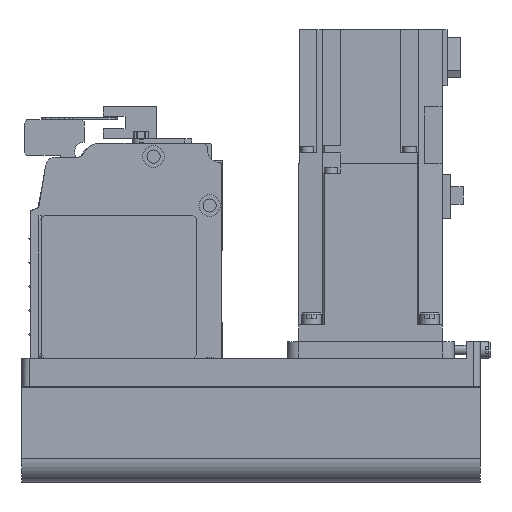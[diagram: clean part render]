
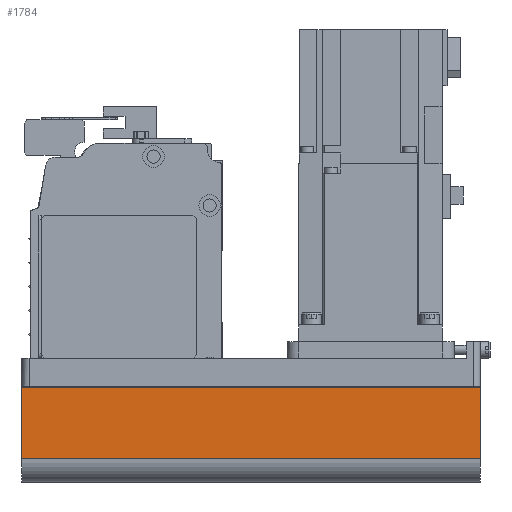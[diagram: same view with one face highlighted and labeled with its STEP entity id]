
A CAD part, left-side view. The second image highlights one B-rep face of the part: STEP entity #1784.
In plain terms, the highlighted planar face has unit normal (-1, 0, 0) as drawn and (0, 1, 0) by its records, which use the part's own axes.
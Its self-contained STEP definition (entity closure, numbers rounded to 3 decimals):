
#1784 = ADVANCED_FACE( '', ( #3838 ), #3839, .T. );
#3838 = FACE_OUTER_BOUND( '', #6182, .T. );
#3839 = PLANE( '', #6183 );
#6182 = EDGE_LOOP( '', ( #11194, #11195, #11196, #11197 ) );
#6183 = AXIS2_PLACEMENT_3D( '', #11198, #11199, #11200 );
#11194 = ORIENTED_EDGE( '', *, *, #14840, .F. );
#11195 = ORIENTED_EDGE( '', *, *, #13564, .F. );
#11196 = ORIENTED_EDGE( '', *, *, #14479, .T. );
#11197 = ORIENTED_EDGE( '', *, *, #15387, .T. );
#11198 = CARTESIAN_POINT( '', ( -192., 40., -42. ) );
#11199 = DIRECTION( '', ( 0., 1., 0. ) );
#11200 = DIRECTION( '', ( 0., 0., 1. ) );
#13564 = EDGE_CURVE( '', #16173, #16169, #16175, .T. );
#14479 = EDGE_CURVE( '', #16173, #17703, #17706, .T. );
#14840 = EDGE_CURVE( '', #16169, #18246, #18247, .T. );
#15387 = EDGE_CURVE( '', #17703, #18246, #18971, .T. );
#16169 = VERTEX_POINT( '', #19913 );
#16173 = VERTEX_POINT( '', #19918 );
#16175 = LINE( '', #19920, #19921 );
#17703 = VERTEX_POINT( '', #21978 );
#17706 = LINE( '', #21982, #21983 );
#18246 = VERTEX_POINT( '', #22707 );
#18247 = LINE( '', #22708, #22709 );
#18971 = LINE( '', #23713, #23714 );
#19913 = CARTESIAN_POINT( '', ( 0., 40., -42. ) );
#19918 = CARTESIAN_POINT( '', ( -192., 40., -42. ) );
#19920 = CARTESIAN_POINT( '', ( -192., 40., -42. ) );
#19921 = VECTOR( '', #24569, 1000. );
#21978 = CARTESIAN_POINT( '', ( -192., 40., -12.1 ) );
#21982 = CARTESIAN_POINT( '', ( -192., 40., -42. ) );
#21983 = VECTOR( '', #25745, 1000. );
#22707 = CARTESIAN_POINT( '', ( 0., 40., -12.1 ) );
#22708 = CARTESIAN_POINT( '', ( 0., 40., -42. ) );
#22709 = VECTOR( '', #26197, 1000. );
#23713 = CARTESIAN_POINT( '', ( -192., 40., -12.1 ) );
#23714 = VECTOR( '', #26793, 1000. );
#24569 = DIRECTION( '', ( 1., 0., 0. ) );
#25745 = DIRECTION( '', ( 0., 0., 1. ) );
#26197 = DIRECTION( '', ( 0., 0., 1. ) );
#26793 = DIRECTION( '', ( 1., 0., 0. ) );
